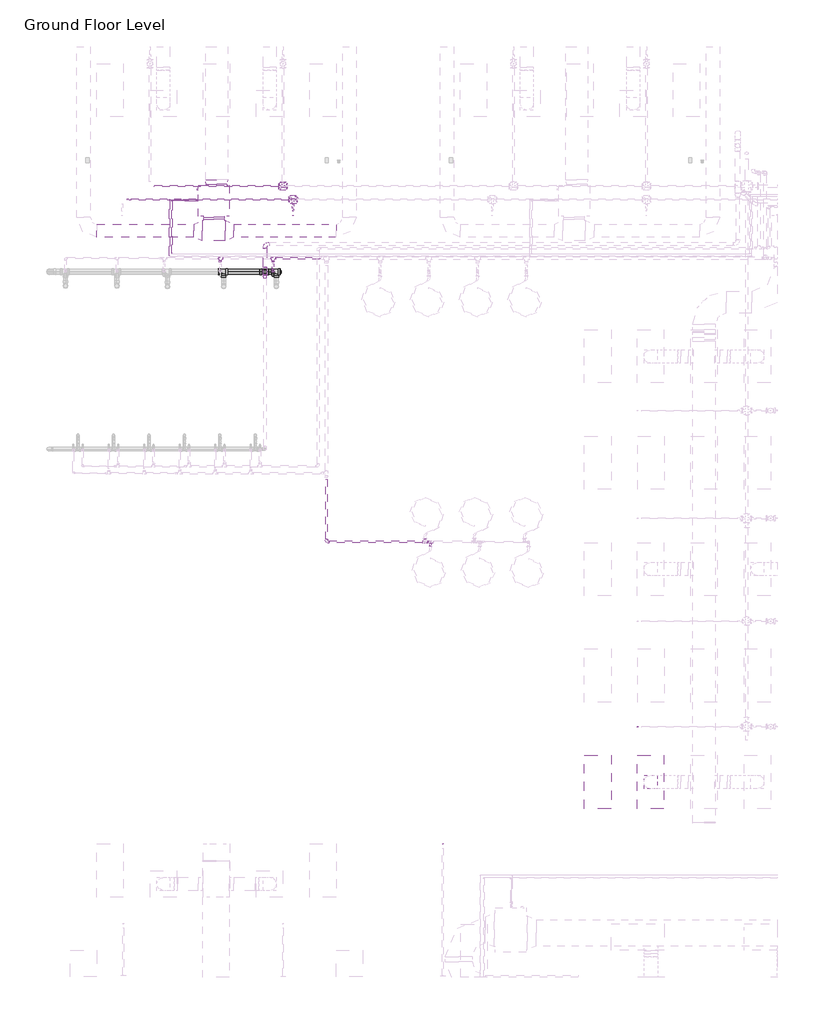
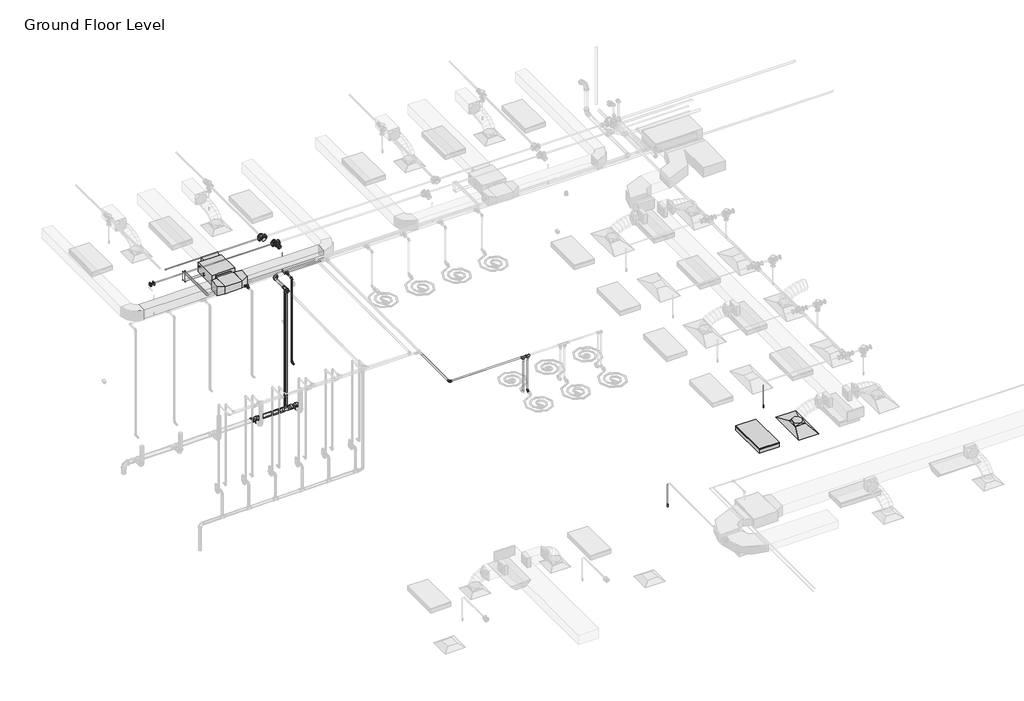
# One storey, part 43 of 74: 28 pipe segments, 25 pipe fittings, 5 duct fittings, 3 duct segments, 3 fire suppression terminals, 1 air terminal, 1 light fixture, 1 proxy.
"""IFC4 building model written with IfcOpenShell, lengths in millimetres."""

from ifc_helpers import new_model, si_unit, point, frame, frame_2d, origin, place, context, project, spatial, polyline, circle_curve, trimmed, segment, composite_curve, outline, extrude, transform, mapped, element, save
from components import m_return_diffuser_1200x600_1200_x_600_face_300_x_300_d1983ef6, fcu_daikin_iu_bad131e0, m_rectangular_tee_standard_fa4de0e8, m_rectangular_transition_angle_45_degree_5a11b24e, m_rectangular_transition_angle_45_degree_6e5ad010, m_rectangular_to_round_transition_angle_45_degree_641efff0, m_sprinkler_dry_pendent_hosted_15_mm_dry_pendent_9bda8e11, m_sprinkler_pendent_15_mm_pendent_06fcbd8e, m_troffer_light_parabolic_rectangular1_0600x1200mm_4_lamp_86473d4a, m_bend_pvc_sch_40_dwv_standard_1fdc8943, m_elbow_generic_standard_a088f956, m_elbow_generic_standard_2a704253, m_plug_pvc_sch_40_dwv_standard_6c40de1c, m_reducer_flanged_cs_class_150_standard_ccf252ad, m_reducer_pvc_sch_40_dwv_standard_d6f2da47, m_tee_reducing_sanitary_pvc_sch_40_dwv_standard_b49161a9, m_tee_reducing_sanitary_pvc_sch_40_dwv_standard_35af4ecc, m_tee_reducing_sanitary_pvc_sch_40_dwv_standard_9cd1363b, m_tee_round_base_flanged_cs_class_150_standard_7e5987a1, standard_517a5a8d, standard_08ff6011, standard_d0d0b892, standard_69e4ce0e

model = new_model("IFC4")

# Units and contexts
model_context = context("Model", 3, world=origin())
ifc_project = project(units=[si_unit("LENGTHUNIT", "METRE", prefix="MILLI")], contexts=[model_context])

# Site, building, storey
site = spatial("IfcSite", under=ifc_project)
building = spatial("IfcBuilding", under=site)
storey = spatial("IfcBuildingStorey", under=building, Name="Ground Floor Level", Elevation=900.0)

# Air terminal
placement = place(None, origin())
m_return_diffuser_1200x600_1200_x_600_face_300_x_300_shape = m_return_diffuser_1200x600_1200_x_600_face_300_x_300_d1983ef6(model_context)
element("IfcAirTerminal", 1, ObjectType="M_Supply Diffuser 1200x600 : 1200 x 600 Face 300 x 300 Connection", at=placement, inside=storey, context=model_context, shape_type="MappedRepresentation", body=[
    mapped(m_return_diffuser_1200x600_1200_x_600_face_300_x_300_shape, transform((-8142.6846929, 1635.2153534, 3650.0), x_axis=(0.0, 1.0, 0.0), y_axis=(-1.0, 0.0, 0.0), z_axis=(0.0, 0.0, 1.0))),
])

# Proxy
fcu_daikin_iu_shape = fcu_daikin_iu_bad131e0(model_context)
element("IfcBuildingElementProxy", 2, Name="FCU-DAIKIN IU : 4.5kW, 230V/50Hz/1Ph", ObjectType="FCU-DAIKIN IU : 4.5kW, 230V/50Hz/1Ph", at=placement, inside=storey, context=model_context, shape_type="MappedRepresentation", body=[
    mapped(fcu_daikin_iu_shape, transform((-17997.2327605, 14745.2153534, 3934.0881511), x_axis=(-1.0, 0.0, 0.0), y_axis=(0.0, -1.0, 0.0), z_axis=(0.0, 0.0, 1.0))),
])

# Duct fittings
m_rectangular_tee_standard_shape = m_rectangular_tee_standard_fa4de0e8(model_context)
element("IfcDuctFitting", 3, ObjectType="M_Rectangular Tee : Standard", at=placement, inside=storey, context=model_context, shape_type="MappedRepresentation", body=[
    mapped(m_rectangular_tee_standard_shape, transform((-17997.2327605, 14069.8153534, 4075.2881511), x_axis=(-1.0, 0.0, 0.0), y_axis=(0.0, -1.0, 0.0), z_axis=(0.0, 0.0, 1.0))),
])
m_rectangular_transition_angle_45_degree_shape = m_rectangular_transition_angle_45_degree_5a11b24e(model_context)
element("IfcDuctFitting", 4, ObjectType="M_Rectangular Transition - Angle : 45 Degree", at=placement, inside=storey, context=model_context, shape_type="MappedRepresentation", body=[
    mapped(m_rectangular_transition_angle_45_degree_shape, transform((-17933.7327605, 15120.6153534, 4100.0006511), x_axis=(0.0, 1.0, 0.0), y_axis=(-1.0, 0.0, 0.0), z_axis=(0.0, 0.0, 1.0))),
])
m_rectangular_transition_angle_45_degree_2_shape = m_rectangular_transition_angle_45_degree_6e5ad010(model_context)
element("IfcDuctFitting", 5, ObjectType="M_Rectangular Transition - Angle : 45 Degree", at=placement, inside=storey, context=model_context, shape_type="MappedRepresentation", body=[
    mapped(m_rectangular_transition_angle_45_degree_2_shape, transform((-17741.2952605, 14069.8153534, 4075.2881511), x_axis=(1.0, 0.0, 0.0), y_axis=(0.0, 1.0, 0.0), z_axis=(0.0, 0.0, 1.0))),
])
element("IfcDuctFitting", 6, ObjectType="M_Rectangular Transition - Angle : 45 Degree", at=placement, inside=storey, context=model_context, shape_type="MappedRepresentation", body=[
    mapped(m_rectangular_transition_angle_45_degree_2_shape, transform((-18253.1702605, 14069.8153534, 4075.2881511), x_axis=(-1.0, 0.0, 0.0), y_axis=(0.0, -1.0, 0.0), z_axis=(0.0, 0.0, 1.0))),
])
m_rectangular_to_round_transition_angle_45_degree_shape = m_rectangular_to_round_transition_angle_45_degree_641efff0(model_context)
element("IfcDuctFitting", 7, ObjectType="M_Rectangular to Round Transition - Angle : 45 Degree", at=placement, inside=storey, context=model_context, shape_type="MappedRepresentation", body=[
    mapped(m_rectangular_to_round_transition_angle_45_degree_shape, transform((-8142.6846929, 1635.2153534, 3751.6), x_axis=(0.0, 0.0, 1.0), y_axis=(-1.0, 0.0, 0.0), z_axis=(0.0, -1.0, 0.0))),
])

# Duct segments
element("IfcDuctSegment", 8, ObjectType="Radius Elbows / Taps", at=placement, inside=storey, context=model_context, shape_type="SweptSolid", body=[
    extrude(outline(polyline([(-18228.1702605, 14369.8153534), (-17766.2952605, 14369.8153534), (-17766.2952605, 14325.7528534), (-18228.1702605, 14325.7528534), (-18228.1702605, 14369.8153534)])), frame((0.0, 0.0, 3968.1381511), z_axis=(0.0, 0.0, 1.0), x_axis=(1.0, 0.0, 0.0)), (0.0, 0.0, 1.0), 214.3),
])
element("IfcDuctSegment", 9, ObjectType="Radius Elbows / Taps", at=placement, inside=storey, context=model_context, shape_type="SweptSolid", body=[
    extrude(outline(polyline([(-17545.8948503, 13919.8153534), (-17545.8948503, 14219.8153534), (-15237.2327605, 14219.8153534), (-15237.2327605, 13919.8153534), (-17545.8948503, 13919.8153534)])), frame((0.0, 0.0, 3925.2881511), z_axis=(0.0, 0.0, 1.0), x_axis=(1.0, 0.0, 0.0)), (0.0, 0.0, 1.0), 300.0),
])
element("IfcDuctSegment", 10, ObjectType="Radius Elbows / Taps", at=placement, inside=storey, context=model_context, shape_type="SweptSolid", body=[
    extrude(outline(polyline([(-18448.5706707, 14219.8153534), (-18448.5706707, 13919.8153534), (-20637.2327605, 13919.8153534), (-20637.2327605, 14219.8153534), (-18448.5706707, 14219.8153534)])), frame((0.0, 0.0, 3925.2881511), z_axis=(0.0, 0.0, 1.0), x_axis=(1.0, 0.0, 0.0)), (0.0, 0.0, 1.0), 300.0),
])

# Fire suppression terminals
m_sprinkler_dry_pendent_hosted_15_mm_dry_pendent_shape = m_sprinkler_dry_pendent_hosted_15_mm_dry_pendent_9bda8e11(model_context)
element("IfcFireSuppressionTerminal", 11, ObjectType="M_Sprinkler - Dry - Pendent - Hosted : 15 mm Dry Pendent", at=placement, inside=storey, context=model_context, shape_type="MappedRepresentation", body=[
    mapped(m_sprinkler_dry_pendent_hosted_15_mm_dry_pendent_shape, transform((-8437.2327605, 2881.5134565, 3650.0), x_axis=(1.0, 0.0, 0.0), y_axis=(0.0, -1.0, 0.0), z_axis=(0.0, 0.0, -1.0))),
])
element("IfcFireSuppressionTerminal", 12, ObjectType="M_Sprinkler - Dry - Pendent - Hosted : 15 mm Dry Pendent", at=placement, inside=storey, context=model_context, shape_type="MappedRepresentation", body=[
    mapped(m_sprinkler_dry_pendent_hosted_15_mm_dry_pendent_shape, transform((-12837.2327605, 235.2153534, 3650.0), x_axis=(1.0, 0.0, 0.0), y_axis=(0.0, -1.0, 0.0), z_axis=(0.0, 0.0, -1.0))),
])
m_sprinkler_pendent_15_mm_pendent_shape = m_sprinkler_pendent_15_mm_pendent_06fcbd8e(model_context)
element("IfcFireSuppressionTerminal", 13, ObjectType="M_Sprinkler - Pendent : 15 mm Pendent", at=placement, inside=storey, context=model_context, shape_type="MappedRepresentation", body=[
    mapped(m_sprinkler_pendent_15_mm_pendent_shape, transform((-16210.1138499, 14412.7243649, 3650.0), x_axis=(1.0, 0.0, 0.0), y_axis=(0.0, 1.0, 0.0), z_axis=(0.0, 0.0, 1.0))),
])

# Light fixture
m_troffer_light_parabolic_rectangular1_0600x1200mm_4_lamp_shape = m_troffer_light_parabolic_rectangular1_0600x1200mm_4_lamp_86473d4a(model_context)
element("IfcLightFixture", 14, ObjectType="M_Troffer Light - Parabolic Rectangular1 : 0600x1200mm(4 Lamp) - 277V 2", at=placement, inside=storey, context=model_context, shape_type="MappedRepresentation", body=[
    mapped(m_troffer_light_parabolic_rectangular1_0600x1200mm_4_lamp_shape, transform((-9396.6986926, 1653.918855, 3650.0), x_axis=(0.0, 1.0, 0.0), y_axis=(-1.0, 0.0, 0.0), z_axis=(0.0, 0.0, 1.0))),
])

# Pipe fittings
m_bend_pvc_sch_40_dwv_standard_shape = m_bend_pvc_sch_40_dwv_standard_1fdc8943(model_context)
element("IfcPipeFitting", 15, ObjectType="M_Bend - PVC - Sch 40 - DWV : Standard", at=placement, inside=storey, context=model_context, shape_type="MappedRepresentation", body=[
    mapped(m_bend_pvc_sch_40_dwv_standard_shape, transform((-16844.3158637, 13768.8048932, 4050.2768363), x_axis=(-0.9999500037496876, 0.0, -0.009999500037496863), y_axis=(0.0, -1.0, 0.0), z_axis=(-0.009999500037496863, 0.0, 0.9999500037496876))),
])
m_elbow_generic_standard_shape = m_elbow_generic_standard_a088f956(model_context)
element("IfcPipeFitting", 16, ObjectType="M_Elbow - Generic : Standard", at=placement, inside=storey, context=model_context, shape_type="MappedRepresentation", body=[
    mapped(m_elbow_generic_standard_shape, transform((-18945.3327605, 14745.2153534, 4034.0881511), x_axis=(-1.0, 0.0, 0.0), y_axis=(0.0, 0.0, 1.0), z_axis=(0.0, 1.0, 0.0))),
])
element("IfcPipeFitting", 17, ObjectType="M_Elbow - Generic : Standard", at=placement, inside=storey, context=model_context, shape_type="MappedRepresentation", body=[
    mapped(m_elbow_generic_standard_shape, transform((-18945.3327605, 14745.2153534, 4380.0), x_axis=(0.0, 0.0, 1.0), y_axis=(0.0, -1.0, 0.0), z_axis=(1.0, 0.0, 0.0))),
])
m_elbow_generic_standard_2_shape = m_elbow_generic_standard_2a704253(model_context)
element("IfcPipeFitting", 18, ObjectType="M_Elbow - Generic : Standard", at=placement, inside=storey, context=model_context, shape_type="MappedRepresentation", body=[
    mapped(m_elbow_generic_standard_2_shape, transform((-18995.0192947, 14770.2153534, 4365.0), x_axis=(0.0, 1.0, 0.0), y_axis=(0.0, 0.0, -1.0), z_axis=(-1.0, 0.0, 0.0))),
])
element("IfcPipeFitting", 19, ObjectType="M_Elbow - Generic : Standard", at=placement, inside=storey, context=model_context, shape_type="MappedRepresentation", body=[
    mapped(m_elbow_generic_standard_2_shape, transform((-18995.0192947, 14770.2153534, 4084.8881511), x_axis=(0.0, 0.0, -1.0), y_axis=(1.0, 0.0, 0.0), z_axis=(0.0, -1.0, 0.0))),
])
m_plug_pvc_sch_40_dwv_standard_shape = m_plug_pvc_sch_40_dwv_standard_6c40de1c(model_context)
element("IfcPipeFitting", 20, ObjectType="M_Plug - PVC - Sch 40 - DWV : Standard", at=placement, inside=storey, context=model_context, shape_type="MappedRepresentation", body=[
    mapped(m_plug_pvc_sch_40_dwv_standard_shape, transform((-16497.5246709, 13143.7240477, 252.0903992), x_axis=(0.9999500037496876, 0.0, 0.009999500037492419), y_axis=(0.0, 1.0, 0.0), z_axis=(-0.009999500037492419, 0.0, 0.9999500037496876))),
])
m_reducer_flanged_cs_class_150_standard_shape = m_reducer_flanged_cs_class_150_standard_ccf252ad(model_context)
element("IfcPipeFitting", 21, ObjectType="M_Reducer - Flanged - CS - Class 150 : Standard", at=placement, inside=storey, context=model_context, shape_type="MappedRepresentation", body=[
    mapped(m_reducer_flanged_cs_class_150_standard_shape, transform((-19856.6717995, 14773.4681847, 4291.0943441), x_axis=(-1.0, 0.0, 0.0), y_axis=(0.0, -1.0, 0.0), z_axis=(0.0, 0.0, 1.0))),
])
element("IfcPipeFitting", 22, ObjectType="M_Reducer - Flanged - CS - Class 150 : Standard", at=placement, inside=storey, context=model_context, shape_type="MappedRepresentation", body=[
    mapped(m_reducer_flanged_cs_class_150_standard_shape, transform((-16210.1138499, 14672.759591, 4291.0943441), x_axis=(0.0, -1.0, 0.0), y_axis=(1.0, 0.0, 0.0), z_axis=(0.0, 0.0, 1.0))),
])
m_reducer_pvc_sch_40_dwv_standard_shape = m_reducer_pvc_sch_40_dwv_standard_d6f2da47(model_context)
element("IfcPipeFitting", 23, ObjectType="M_Reducer - PVC - Sch 40 - DWV : Standard", at=placement, inside=storey, context=model_context, shape_type="MappedRepresentation", body=[
    mapped(m_reducer_pvc_sch_40_dwv_standard_shape, transform((-16844.3158637, 13068.078397, 4049.9889294), x_axis=(0.0, -0.9999576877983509, -0.009199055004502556), y_axis=(1.0000000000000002, 0.0, 0.0), z_axis=(0.0, -0.009199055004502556, 0.9999576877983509))),
])
m_tee_reducing_sanitary_pvc_sch_40_dwv_standard_shape = m_tee_reducing_sanitary_pvc_sch_40_dwv_standard_b49161a9(model_context)
element("IfcPipeFitting", 24, ObjectType="M_Tee Reducing Sanitary - PVC - Sch 40 - DWV : Standard", at=placement, inside=storey, context=model_context, shape_type="MappedRepresentation", body=[
    mapped(m_tee_reducing_sanitary_pvc_sch_40_dwv_standard_shape, transform((-17775.8329095, 13143.7240477, 239.3073168), x_axis=(0.9999500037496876, 0.0, 0.00999950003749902), y_axis=(0.0, 1.0000000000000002, 0.0), z_axis=(-0.00999950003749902, 0.0, 0.9999500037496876))),
])
element("IfcPipeFitting", 25, ObjectType="M_Tee Reducing Sanitary - PVC - Sch 40 - DWV : Standard", at=placement, inside=storey, context=model_context, shape_type="MappedRepresentation", body=[
    mapped(m_tee_reducing_sanitary_pvc_sch_40_dwv_standard_shape, transform((-16586.4202262, 13143.7240477, 251.2014437), x_axis=(0.9999500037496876, 0.0, 0.009999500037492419), y_axis=(0.0, 1.0, 0.0), z_axis=(-0.009999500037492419, 0.0, 0.9999500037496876))),
])
m_tee_reducing_sanitary_pvc_sch_40_dwv_standard_2_shape = m_tee_reducing_sanitary_pvc_sch_40_dwv_standard_35af4ecc(model_context)
element("IfcPipeFitting", 26, ObjectType="M_Tee Reducing Sanitary - PVC - Sch 40 - DWV : Standard", at=placement, inside=storey, context=model_context, shape_type="MappedRepresentation", body=[
    mapped(m_tee_reducing_sanitary_pvc_sch_40_dwv_standard_2_shape, transform((-16844.3824695, 13143.7240477, 248.6218212), x_axis=(0.9999500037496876, 0.0, 0.00999950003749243), y_axis=(0.00999950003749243, 0.0, -0.9999500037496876), z_axis=(0.0, 1.0, 0.0))),
])
m_tee_reducing_sanitary_pvc_sch_40_dwv_standard_3_shape = m_tee_reducing_sanitary_pvc_sch_40_dwv_standard_9cd1363b(model_context)
element("IfcPipeFitting", 27, ObjectType="M_Tee Reducing Sanitary - PVC - Sch 40 - DWV : Standard", at=placement, inside=storey, context=model_context, shape_type="MappedRepresentation", body=[
    mapped(m_tee_reducing_sanitary_pvc_sch_40_dwv_standard_3_shape, transform((-16844.3158637, 13143.7240477, 4050.2768363), x_axis=(0.0, -1.0, 0.0), y_axis=(-2.9192257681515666e-06, 0.0, 0.9999999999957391), z_axis=(-0.9999999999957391, 0.0, -2.9192257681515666e-06))),
])
m_tee_round_base_flanged_cs_class_150_standard_shape = m_tee_round_base_flanged_cs_class_150_standard_7e5987a1(model_context)
element("IfcPipeFitting", 28, ObjectType="M_Tee Round Base - Flanged - CS - Class 150 : Standard", at=placement, inside=storey, context=model_context, shape_type="MappedRepresentation", body=[
    mapped(m_tee_round_base_flanged_cs_class_150_standard_shape, transform((-16210.1138499, 14773.4681847, 4291.0943441), x_axis=(-1.0, 0.0, 0.0), y_axis=(0.0, 1.0, 0.0), z_axis=(0.0, 0.0, -1.0))),
])
element("IfcPipeFitting", 29, ObjectType="M_Tee Round Base - Flanged - CS - Class 150 : Standard", at=placement, inside=storey, context=model_context, shape_type="MappedRepresentation", body=[
    mapped(m_tee_round_base_flanged_cs_class_150_standard_shape, transform((-16437.2327605, 15073.2009828, 4360.0), x_axis=(-1.0, 0.0, 0.0), y_axis=(0.0, -1.0, 0.0), z_axis=(0.0, 0.0, 1.0))),
])
standard_shape = standard_517a5a8d(model_context)
element("IfcPipeFitting", 30, ObjectType="M_Elbow - CPVC - Sch 40 : Standard", at=placement, inside=storey, context=model_context, shape_type="MappedRepresentation", body=[
    mapped(standard_shape, transform((-16659.8589924, 13149.9865561, 4315.0), x_axis=(0.0, 0.0, 1.0), y_axis=(0.0, 1.0, 0.0), z_axis=(-1.0, 0.0, 0.0))),
])
element("IfcPipeFitting", 31, ObjectType="M_Elbow - CPVC - Sch 40 : Standard", at=placement, inside=storey, context=model_context, shape_type="MappedRepresentation", body=[
    mapped(standard_shape, transform((-16659.8589924, 13149.9865561, 1655.0), x_axis=(0.0, 0.0, -1.0), y_axis=(0.0, -1.0, 0.0), z_axis=(-1.0, 0.0, 0.0))),
])
element("IfcPipeFitting", 32, ObjectType="M_Elbow - CPVC - Sch 40 : Standard", at=placement, inside=storey, context=model_context, shape_type="MappedRepresentation", body=[
    mapped(standard_shape, transform((-13107.2327605, 7049.9865561, 3200.0), x_axis=(0.0, 0.0, -1.0), y_axis=(0.0, -1.0, 0.0), z_axis=(-1.0, 0.0, 0.0))),
])
standard_2_shape = standard_08ff6011(model_context)
element("IfcPipeFitting", 33, ObjectType="M_Tee - CPVC - Sch 40 : Standard", at=placement, inside=storey, context=model_context, shape_type="MappedRepresentation", body=[
    mapped(standard_2_shape, transform((-17849.2716757, 13449.9865561, 4315.0), x_axis=(-1.0, 0.0, 0.0), y_axis=(0.0, 1.0, 0.0), z_axis=(0.0, 0.0, -1.0))),
])
element("IfcPipeFitting", 34, ObjectType="M_Tee - CPVC - Sch 40 : Standard", at=placement, inside=storey, context=model_context, shape_type="MappedRepresentation", body=[
    mapped(standard_2_shape, transform((-16659.8589924, 13449.9865561, 4315.0), x_axis=(-1.0, 0.0, 0.0), y_axis=(0.0, 1.0, 0.0), z_axis=(0.0, 0.0, -1.0))),
])
element("IfcPipeFitting", 35, ObjectType="M_Tee - CPVC - Sch 40 : Standard", at=placement, inside=storey, context=model_context, shape_type="MappedRepresentation", body=[
    mapped(standard_2_shape, transform((-13107.2327605, 7049.9865561, 4315.0), x_axis=(-1.0, 0.0, 0.0), y_axis=(0.0, 0.0, 1.0), z_axis=(0.0, 1.0, 0.0))),
])
element("IfcPipeFitting", 36, ObjectType="M_Tee - CPVC - Sch 40 : Standard", at=placement, inside=storey, context=model_context, shape_type="MappedRepresentation", body=[
    mapped(standard_2_shape, transform((-13232.2327605, 7049.9865561, 4315.0), x_axis=(-1.0, 0.0, 0.0), y_axis=(0.0, 0.0, 1.0), z_axis=(0.0, 1.0, 0.0))),
])
standard_3_shape = standard_d0d0b892(model_context)
element("IfcPipeFitting", 37, ObjectType="M_Coupling Reducing - CPVC - Sch 40 : Standard", at=placement, inside=storey, context=model_context, shape_type="MappedRepresentation", body=[
    mapped(standard_3_shape, transform((-17849.2716757, 13396.0115561, 4315.0), x_axis=(0.0, -1.0, 0.0), y_axis=(1.0, 0.0, 0.0), z_axis=(0.0, 0.0, 1.0))),
])
element("IfcPipeFitting", 38, ObjectType="M_Coupling Reducing - CPVC - Sch 40 : Standard", at=placement, inside=storey, context=model_context, shape_type="MappedRepresentation", body=[
    mapped(standard_3_shape, transform((-16659.8589924, 13396.0115561, 4315.0), x_axis=(0.0, -1.0, 0.0), y_axis=(1.0, 0.0, 0.0), z_axis=(0.0, 0.0, 1.0))),
])
standard_4_shape = standard_69e4ce0e(model_context)
element("IfcPipeFitting", 39, ObjectType="M_Elbow - CPVC - Sch 40 : Standard", at=placement, inside=storey, context=model_context, shape_type="MappedRepresentation", body=[
    mapped(standard_4_shape, transform((-15455.6408298, 7049.9865561, 4315.0), x_axis=(0.0, -1.0, 0.0), y_axis=(1.0, 0.0, 0.0), z_axis=(0.0, 0.0, 1.0))),
])

# Pipe segments
element("IfcPipeSegment", 40, ObjectType="CPVC", at=placement, inside=storey, context=model_context, shape_type="SweptSolid", body=[
    extrude(outline(composite_curve([segment(trimmed(circle_curve(frame_2d((1655.0, -16659.8589924)), 16.7005), [point((1655.0, -16676.5594924))], [point((1638.2995, -16659.8589924))], False, "CARTESIAN"), True, "CONTINUOUS"), segment(trimmed(circle_curve(frame_2d((1655.0, -16659.8589924)), 16.7005), [point((1638.2995, -16659.8589924))], [point((1655.0, -16643.1584924))], False, "CARTESIAN"), True, "CONTINUOUS"), segment(trimmed(circle_curve(frame_2d((1655.0, -16659.8589924)), 16.7005), [point((1655.0, -16643.1584924))], [point((1671.7005, -16659.8589924))], False, "CARTESIAN"), True, "CONTINUOUS"), segment(trimmed(circle_curve(frame_2d((1655.0, -16659.8589924)), 16.7005), [point((1671.7005, -16659.8589924))], [point((1655.0, -16676.5594924))], False, "CARTESIAN"), True, "CONTINUOUS")], self_intersect=False)), frame((0.0, 13045.2153534, 0.0), z_axis=(0.0, 1.0, 0.0), x_axis=(0.0, 0.0, 1.0)), (0.0, 0.0, 1.0), 61.5086528),
])
element("IfcPipeSegment", 41, ObjectType="CPVC", at=placement, inside=storey, context=model_context, shape_type="SweptSolid", body=[
    extrude(outline(composite_curve([segment(trimmed(circle_curve(frame_2d((-16659.8589924, 13149.9865561)), 16.7005), [point((-16676.5594924, 13149.9865561))], [point((-16659.8589924, 13166.6870561))], False, "CARTESIAN"), True, "CONTINUOUS"), segment(trimmed(circle_curve(frame_2d((-16659.8589924, 13149.9865561)), 16.7005), [point((-16659.8589924, 13166.6870561))], [point((-16643.1584924, 13149.9865561))], False, "CARTESIAN"), True, "CONTINUOUS"), segment(trimmed(circle_curve(frame_2d((-16659.8589924, 13149.9865561)), 16.7005), [point((-16643.1584924, 13149.9865561))], [point((-16659.8589924, 13133.2860561))], False, "CARTESIAN"), True, "CONTINUOUS"), segment(trimmed(circle_curve(frame_2d((-16659.8589924, 13149.9865561)), 16.7005), [point((-16659.8589924, 13133.2860561))], [point((-16676.5594924, 13149.9865561))], False, "CARTESIAN"), True, "CONTINUOUS")], self_intersect=False)), frame((0.0, 0.0, 1698.26255), z_axis=(0.0, 0.0, 1.0), x_axis=(1.0, 0.0, 0.0)), (0.0, 0.0, 1.0), 2573.4749),
])
element("IfcPipeSegment", 42, ObjectType="CPVC", at=placement, inside=storey, context=model_context, shape_type="SweptSolid", body=[
    extrude(outline(composite_curve([segment(trimmed(circle_curve(frame_2d((4315.0, -16659.8589924)), 16.7005), [point((4315.0, -16643.1584924))], [point((4331.7005, -16659.8589924))], False, "CARTESIAN"), True, "CONTINUOUS"), segment(trimmed(circle_curve(frame_2d((4315.0, -16659.8589924)), 16.7005), [point((4331.7005, -16659.8589924))], [point((4315.0, -16676.5594924))], False, "CARTESIAN"), True, "CONTINUOUS"), segment(trimmed(circle_curve(frame_2d((4315.0, -16659.8589924)), 16.7005), [point((4315.0, -16676.5594924))], [point((4298.2995, -16659.8589924))], False, "CARTESIAN"), True, "CONTINUOUS"), segment(trimmed(circle_curve(frame_2d((4315.0, -16659.8589924)), 16.7005), [point((4298.2995, -16659.8589924))], [point((4315.0, -16643.1584924))], False, "CARTESIAN"), True, "CONTINUOUS")], self_intersect=False)), frame((0.0, 13193.2491061, 0.0), z_axis=(0.0, 1.0, 0.0), x_axis=(0.0, 0.0, 1.0)), (0.0, 0.0, 1.0), 136.643575),
])
element("IfcPipeSegment", 43, ObjectType="CPVC", at=placement, inside=storey, context=model_context, shape_type="SweptSolid", body=[
    extrude(outline(composite_curve([segment(trimmed(circle_curve(frame_2d((4315.0, -15455.6408298)), 21.082), [point((4315.0, -15476.7228298))], [point((4293.918, -15455.6408298))], False, "CARTESIAN"), True, "CONTINUOUS"), segment(trimmed(circle_curve(frame_2d((4315.0, -15455.6408298)), 21.082), [point((4293.918, -15455.6408298))], [point((4315.0, -15434.5588298))], False, "CARTESIAN"), True, "CONTINUOUS"), segment(trimmed(circle_curve(frame_2d((4315.0, -15455.6408298)), 21.082), [point((4315.0, -15434.5588298))], [point((4336.082, -15455.6408298))], False, "CARTESIAN"), True, "CONTINUOUS"), segment(trimmed(circle_curve(frame_2d((4315.0, -15455.6408298)), 21.082), [point((4336.082, -15455.6408298))], [point((4315.0, -15476.7228298))], False, "CARTESIAN"), True, "CONTINUOUS")], self_intersect=False)), frame((0.0, 7107.9303061, 0.0), z_axis=(0.0, 1.0, 0.0), x_axis=(0.0, 0.0, 1.0)), (0.0, 0.0, 1.0), 1355.4879172),
])
element("IfcPipeSegment", 44, ObjectType="CPVC", at=placement, inside=storey, context=model_context, shape_type="SweptSolid", body=[
    extrude(outline(composite_curve([segment(trimmed(circle_curve(frame_2d((13449.9865561, 4315.0)), 21.082), [point((13428.9045561, 4315.0))], [point((13449.9865561, 4336.082))], False, "CARTESIAN"), True, "CONTINUOUS"), segment(trimmed(circle_curve(frame_2d((13449.9865561, 4315.0)), 21.082), [point((13449.9865561, 4336.082))], [point((13471.0685561, 4315.0))], False, "CARTESIAN"), True, "CONTINUOUS"), segment(trimmed(circle_curve(frame_2d((13449.9865561, 4315.0)), 21.082), [point((13471.0685561, 4315.0))], [point((13449.9865561, 4293.918))], False, "CARTESIAN"), True, "CONTINUOUS"), segment(trimmed(circle_curve(frame_2d((13449.9865561, 4315.0)), 21.082), [point((13449.9865561, 4293.918))], [point((13428.9045561, 4315.0))], False, "CARTESIAN"), True, "CONTINUOUS")], self_intersect=False)), frame((-16605.8839924, 0.0, 0.0), z_axis=(1.0, 0.0, 0.0), x_axis=(0.0, 1.0, 0.0)), (0.0, 0.0, 1.0), 998.2294126),
])
element("IfcPipeSegment", 45, ObjectType="CPVC", at=placement, inside=storey, context=model_context, shape_type="SweptSolid", body=[
    extrude(outline(composite_curve([segment(trimmed(circle_curve(frame_2d((3200.0, -13107.2327605)), 16.7005), [point((3200.0, -13123.9332605))], [point((3183.2995, -13107.2327605))], False, "CARTESIAN"), True, "CONTINUOUS"), segment(trimmed(circle_curve(frame_2d((3200.0, -13107.2327605)), 16.7005), [point((3183.2995, -13107.2327605))], [point((3200.0, -13090.5322605))], False, "CARTESIAN"), True, "CONTINUOUS"), segment(trimmed(circle_curve(frame_2d((3200.0, -13107.2327605)), 16.7005), [point((3200.0, -13090.5322605))], [point((3216.7005, -13107.2327605))], False, "CARTESIAN"), True, "CONTINUOUS"), segment(trimmed(circle_curve(frame_2d((3200.0, -13107.2327605)), 16.7005), [point((3216.7005, -13107.2327605))], [point((3200.0, -13123.9332605))], False, "CARTESIAN"), True, "CONTINUOUS")], self_intersect=False)), frame((0.0, 6956.8347997, 0.0), z_axis=(0.0, 1.0, 0.0), x_axis=(0.0, 0.0, 1.0)), (0.0, 0.0, 1.0), 49.8892064),
])
element("IfcPipeSegment", 46, ObjectType="CPVC", at=placement, inside=storey, context=model_context, shape_type="SweptSolid", body=[
    extrude(outline(composite_curve([segment(trimmed(circle_curve(frame_2d((-13107.2327605, 7049.9865561)), 16.7005), [point((-13090.5322605, 7049.9865561))], [point((-13107.2327605, 7033.2860561))], False, "CARTESIAN"), True, "CONTINUOUS"), segment(trimmed(circle_curve(frame_2d((-13107.2327605, 7049.9865561)), 16.7005), [point((-13107.2327605, 7033.2860561))], [point((-13123.9332605, 7049.9865561))], False, "CARTESIAN"), True, "CONTINUOUS"), segment(trimmed(circle_curve(frame_2d((-13107.2327605, 7049.9865561)), 16.7005), [point((-13123.9332605, 7049.9865561))], [point((-13107.2327605, 7066.6870561))], False, "CARTESIAN"), True, "CONTINUOUS"), segment(trimmed(circle_curve(frame_2d((-13107.2327605, 7049.9865561)), 16.7005), [point((-13107.2327605, 7066.6870561))], [point((-13090.5322605, 7049.9865561))], False, "CARTESIAN"), True, "CONTINUOUS")], self_intersect=False)), frame((0.0, 0.0, 3243.26255), z_axis=(0.0, 0.0, 1.0), x_axis=(1.0, 0.0, 0.0)), (0.0, 0.0, 1.0), 951.643575),
])
element("IfcPipeSegment", 47, ObjectType="CPVC", at=placement, inside=storey, context=model_context, shape_type="SweptSolid", body=[
    extrude(outline(composite_curve([segment(trimmed(circle_curve(frame_2d((7049.9865561, 4315.0)), 21.082), [point((7028.9045561, 4315.0))], [point((7049.9865561, 4336.082))], False, "CARTESIAN"), True, "CONTINUOUS"), segment(trimmed(circle_curve(frame_2d((7049.9865561, 4315.0)), 21.082), [point((7049.9865561, 4336.082))], [point((7071.0685561, 4315.0))], False, "CARTESIAN"), True, "CONTINUOUS"), segment(trimmed(circle_curve(frame_2d((7049.9865561, 4315.0)), 21.082), [point((7071.0685561, 4315.0))], [point((7049.9865561, 4293.918))], False, "CARTESIAN"), True, "CONTINUOUS"), segment(trimmed(circle_curve(frame_2d((7049.9865561, 4315.0)), 21.082), [point((7049.9865561, 4293.918))], [point((7028.9045561, 4315.0))], False, "CARTESIAN"), True, "CONTINUOUS")], self_intersect=False)), frame((-13178.2577605, 0.0, 0.0), z_axis=(1.0, 0.0, 0.0), x_axis=(0.0, 1.0, 0.0)), (0.0, 0.0, 1.0), 17.05),
])
element("IfcPipeSegment", 48, ObjectType="CPVC", at=placement, inside=storey, context=model_context, shape_type="SweptSolid", body=[
    extrude(outline(composite_curve([segment(trimmed(circle_curve(frame_2d((3200.0, -13232.2327605)), 16.7005), [point((3200.0, -13215.5322605))], [point((3216.7005, -13232.2327605))], False, "CARTESIAN"), True, "CONTINUOUS"), segment(trimmed(circle_curve(frame_2d((3200.0, -13232.2327605)), 16.7005), [point((3216.7005, -13232.2327605))], [point((3200.0, -13248.9332605))], False, "CARTESIAN"), True, "CONTINUOUS"), segment(trimmed(circle_curve(frame_2d((3200.0, -13232.2327605)), 16.7005), [point((3200.0, -13248.9332605))], [point((3183.2995, -13232.2327605))], False, "CARTESIAN"), True, "CONTINUOUS"), segment(trimmed(circle_curve(frame_2d((3200.0, -13232.2327605)), 16.7005), [point((3183.2995, -13232.2327605))], [point((3200.0, -13215.5322605))], False, "CARTESIAN"), True, "CONTINUOUS")], self_intersect=False)), frame((0.0, 7093.2491061, 0.0), z_axis=(0.0, 1.0, 0.0), x_axis=(0.0, 0.0, 1.0)), (0.0, 0.0, 1.0), 30.346801),
])
element("IfcPipeSegment", 49, ObjectType="CPVC", at=placement, inside=storey, context=model_context, shape_type="SweptSolid", body=[
    extrude(outline(composite_curve([segment(trimmed(circle_curve(frame_2d((-13232.2327605, 7049.9865561)), 16.7005), [point((-13215.5322605, 7049.9865561))], [point((-13232.2327605, 7033.2860561))], False, "CARTESIAN"), True, "CONTINUOUS"), segment(trimmed(circle_curve(frame_2d((-13232.2327605, 7049.9865561)), 16.7005), [point((-13232.2327605, 7033.2860561))], [point((-13248.9332605, 7049.9865561))], False, "CARTESIAN"), True, "CONTINUOUS"), segment(trimmed(circle_curve(frame_2d((-13232.2327605, 7049.9865561)), 16.7005), [point((-13248.9332605, 7049.9865561))], [point((-13232.2327605, 7066.6870561))], False, "CARTESIAN"), True, "CONTINUOUS"), segment(trimmed(circle_curve(frame_2d((-13232.2327605, 7049.9865561)), 16.7005), [point((-13232.2327605, 7066.6870561))], [point((-13215.5322605, 7049.9865561))], False, "CARTESIAN"), True, "CONTINUOUS")], self_intersect=False)), frame((0.0, 0.0, 3243.26255), z_axis=(0.0, 0.0, 1.0), x_axis=(1.0, 0.0, 0.0)), (0.0, 0.0, 1.0), 951.643575),
])
element("IfcPipeSegment", 50, ObjectType="CPVC", at=placement, inside=storey, context=model_context, shape_type="SweptSolid", body=[
    extrude(outline(composite_curve([segment(trimmed(circle_curve(frame_2d((7049.9865561, 4315.0)), 21.082), [point((7028.9045561, 4315.0))], [point((7049.9865561, 4336.082))], False, "CARTESIAN"), True, "CONTINUOUS"), segment(trimmed(circle_curve(frame_2d((7049.9865561, 4315.0)), 21.082), [point((7049.9865561, 4336.082))], [point((7071.0685561, 4315.0))], False, "CARTESIAN"), True, "CONTINUOUS"), segment(trimmed(circle_curve(frame_2d((7049.9865561, 4315.0)), 21.082), [point((7071.0685561, 4315.0))], [point((7049.9865561, 4293.918))], False, "CARTESIAN"), True, "CONTINUOUS"), segment(trimmed(circle_curve(frame_2d((7049.9865561, 4315.0)), 21.082), [point((7049.9865561, 4293.918))], [point((7028.9045561, 4315.0))], False, "CARTESIAN"), True, "CONTINUOUS")], self_intersect=False)), frame((-15397.6970798, 0.0, 0.0), z_axis=(1.0, 0.0, 0.0), x_axis=(0.0, 1.0, 0.0)), (0.0, 0.0, 1.0), 2111.4893193),
])
element("IfcPipeSegment", 51, ObjectType="Copper", at=placement, inside=storey, context=model_context, shape_type="SweptSolid", body=[
    extrude(outline(composite_curve([segment(trimmed(circle_curve(frame_2d((14770.2153534, 4084.8881511)), 3.35), [point((14766.8653534, 4084.8881511))], [point((14770.2153534, 4088.2381511))], False, "CARTESIAN"), True, "CONTINUOUS"), segment(trimmed(circle_curve(frame_2d((14770.2153534, 4084.8881511)), 3.35), [point((14770.2153534, 4088.2381511))], [point((14773.5653534, 4084.8881511))], False, "CARTESIAN"), True, "CONTINUOUS"), segment(trimmed(circle_curve(frame_2d((14770.2153534, 4084.8881511)), 3.35), [point((14773.5653534, 4084.8881511))], [point((14770.2153534, 4081.5381511))], False, "CARTESIAN"), True, "CONTINUOUS"), segment(trimmed(circle_curve(frame_2d((14770.2153534, 4084.8881511)), 3.35), [point((14770.2153534, 4081.5381511))], [point((14766.8653534, 4084.8881511))], False, "CARTESIAN"), True, "CONTINUOUS")], self_intersect=False)), frame((-18983.8817947, 0.0, 0.0), z_axis=(1.0, 0.0, 0.0), x_axis=(0.0, 1.0, 0.0)), (0.0, 0.0, 1.0), 598.5490342),
])
element("IfcPipeSegment", 52, ObjectType="Copper", at=placement, inside=storey, context=model_context, shape_type="SweptSolid", body=[
    extrude(outline(composite_curve([segment(trimmed(circle_curve(frame_2d((4365.0, -18995.0192947)), 3.35), [point((4365.0, -18991.6692947))], [point((4368.35, -18995.0192947))], False, "CARTESIAN"), True, "CONTINUOUS"), segment(trimmed(circle_curve(frame_2d((4365.0, -18995.0192947)), 3.35), [point((4368.35, -18995.0192947))], [point((4365.0, -18998.3692947))], False, "CARTESIAN"), True, "CONTINUOUS"), segment(trimmed(circle_curve(frame_2d((4365.0, -18995.0192947)), 3.35), [point((4365.0, -18998.3692947))], [point((4361.65, -18995.0192947))], False, "CARTESIAN"), True, "CONTINUOUS"), segment(trimmed(circle_curve(frame_2d((4365.0, -18995.0192947)), 3.35), [point((4361.65, -18995.0192947))], [point((4365.0, -18991.6692947))], False, "CARTESIAN"), True, "CONTINUOUS")], self_intersect=False)), frame((0.0, 13505.1560138, 0.0), z_axis=(0.0, 1.0, 0.0), x_axis=(0.0, 0.0, 1.0)), (0.0, 0.0, 1.0), 1253.9218396),
])
element("IfcPipeSegment", 53, ObjectType="Copper", at=placement, inside=storey, context=model_context, shape_type="SweptSolid", body=[
    extrude(outline(composite_curve([segment(trimmed(circle_curve(frame_2d((-18995.0192947, 14770.2153534)), 3.35), [point((-18991.6692947, 14770.2153534))], [point((-18995.0192947, 14766.8653534))], False, "CARTESIAN"), True, "CONTINUOUS"), segment(trimmed(circle_curve(frame_2d((-18995.0192947, 14770.2153534)), 3.35), [point((-18995.0192947, 14766.8653534))], [point((-18998.3692947, 14770.2153534))], False, "CARTESIAN"), True, "CONTINUOUS"), segment(trimmed(circle_curve(frame_2d((-18995.0192947, 14770.2153534)), 3.35), [point((-18998.3692947, 14770.2153534))], [point((-18995.0192947, 14773.5653534))], False, "CARTESIAN"), True, "CONTINUOUS"), segment(trimmed(circle_curve(frame_2d((-18995.0192947, 14770.2153534)), 3.35), [point((-18995.0192947, 14773.5653534))], [point((-18991.6692947, 14770.2153534))], False, "CARTESIAN"), True, "CONTINUOUS")], self_intersect=False)), frame((0.0, 0.0, 4096.0256511), z_axis=(0.0, 0.0, 1.0), x_axis=(1.0, 0.0, 0.0)), (0.0, 0.0, 1.0), 257.8368489),
])
element("IfcPipeSegment", 54, ObjectType="Copper", at=placement, inside=storey, context=model_context, shape_type="SweptSolid", body=[
    extrude(outline(composite_curve([segment(trimmed(circle_curve(frame_2d((14745.2153534, 4034.0881511)), 6.5), [point((14751.7153534, 4034.0881511))], [point((14745.2153534, 4027.5881511))], False, "CARTESIAN"), True, "CONTINUOUS"), segment(trimmed(circle_curve(frame_2d((14745.2153534, 4034.0881511)), 6.5), [point((14745.2153534, 4027.5881511))], [point((14738.7153534, 4034.0881511))], False, "CARTESIAN"), True, "CONTINUOUS"), segment(trimmed(circle_curve(frame_2d((14745.2153534, 4034.0881511)), 6.5), [point((14738.7153534, 4034.0881511))], [point((14745.2153534, 4040.5881511))], False, "CARTESIAN"), True, "CONTINUOUS"), segment(trimmed(circle_curve(frame_2d((14745.2153534, 4034.0881511)), 6.5), [point((14745.2153534, 4040.5881511))], [point((14751.7153534, 4034.0881511))], False, "CARTESIAN"), True, "CONTINUOUS")], self_intersect=False)), frame((-18931.0452605, 0.0, 0.0), z_axis=(1.0, 0.0, 0.0), x_axis=(0.0, 1.0, 0.0)), (0.0, 0.0, 1.0), 545.7125),
])
element("IfcPipeSegment", 55, ObjectType="Copper", at=placement, inside=storey, context=model_context, shape_type="SweptSolid", body=[
    extrude(outline(composite_curve([segment(trimmed(circle_curve(frame_2d((-18945.3327605, 14745.2153534)), 6.5), [point((-18951.8327605, 14745.2153534))], [point((-18945.3327605, 14751.7153534))], False, "CARTESIAN"), True, "CONTINUOUS"), segment(trimmed(circle_curve(frame_2d((-18945.3327605, 14745.2153534)), 6.5), [point((-18945.3327605, 14751.7153534))], [point((-18938.8327605, 14745.2153534))], False, "CARTESIAN"), True, "CONTINUOUS"), segment(trimmed(circle_curve(frame_2d((-18945.3327605, 14745.2153534)), 6.5), [point((-18938.8327605, 14745.2153534))], [point((-18945.3327605, 14738.7153534))], False, "CARTESIAN"), True, "CONTINUOUS"), segment(trimmed(circle_curve(frame_2d((-18945.3327605, 14745.2153534)), 6.5), [point((-18945.3327605, 14738.7153534))], [point((-18951.8327605, 14745.2153534))], False, "CARTESIAN"), True, "CONTINUOUS")], self_intersect=False)), frame((0.0, 0.0, 4048.3756511), z_axis=(0.0, 0.0, 1.0), x_axis=(1.0, 0.0, 0.0)), (0.0, 0.0, 1.0), 317.3368489),
])
element("IfcPipeSegment", 56, ObjectType="Copper", at=placement, inside=storey, context=model_context, shape_type="SweptSolid", body=[
    extrude(outline(composite_curve([segment(trimmed(circle_curve(frame_2d((4380.0, -18945.3327605)), 6.5), [point((4380.0, -18951.8327605))], [point((4373.5, -18945.3327605))], False, "CARTESIAN"), True, "CONTINUOUS"), segment(trimmed(circle_curve(frame_2d((4380.0, -18945.3327605)), 6.5), [point((4373.5, -18945.3327605))], [point((4380.0, -18938.8327605))], False, "CARTESIAN"), True, "CONTINUOUS"), segment(trimmed(circle_curve(frame_2d((4380.0, -18945.3327605)), 6.5), [point((4380.0, -18938.8327605))], [point((4386.5, -18945.3327605))], False, "CARTESIAN"), True, "CONTINUOUS"), segment(trimmed(circle_curve(frame_2d((4380.0, -18945.3327605)), 6.5), [point((4386.5, -18945.3327605))], [point((4380.0, -18951.8327605))], False, "CARTESIAN"), True, "CONTINUOUS")], self_intersect=False)), frame((0.0, 13559.5028534, 0.0), z_axis=(0.0, 1.0, 0.0), x_axis=(0.0, 0.0, 1.0)), (0.0, 0.0, 1.0), 1171.425),
])
element("IfcPipeSegment", 57, ObjectType="PVC - DWV", at=placement, inside=storey, context=model_context, shape_type="SweptSolid", body=[
    extrude(outline(composite_curve([segment(trimmed(circle_curve(frame_2d((0.0, -57.15)), 57.15), [point((0.0, 0.0))], [point((57.15, -57.15))], False, "CARTESIAN"), True, "CONTINUOUS"), segment(trimmed(circle_curve(frame_2d((0.0, -57.15)), 57.15), [point((57.15, -57.15))], [point((0.0, -114.3))], False, "CARTESIAN"), True, "CONTINUOUS"), segment(trimmed(circle_curve(frame_2d((0.0, -57.15)), 57.15), [point((0.0, -114.3))], [point((-57.15, -57.15))], False, "CARTESIAN"), True, "CONTINUOUS"), segment(trimmed(circle_curve(frame_2d((0.0, -57.15)), 57.15), [point((-57.15, -57.15))], [point((0.0, 0.0))], False, "CARTESIAN"), True, "CONTINUOUS")], self_intersect=False)), frame((-17686.9373542, 13200.8740477, 240.1962724), z_axis=(0.9999500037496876, 0.0, 0.009999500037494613), x_axis=(0.009999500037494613, 0.0, -0.9999500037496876)), (0.0, 0.0, 1.0), 730.9371051),
])
element("IfcPipeSegment", 58, ObjectType="PVC - DWV", at=placement, inside=storey, context=model_context, shape_type="SweptSolid", body=[
    extrude(outline(composite_curve([segment(trimmed(circle_curve(frame_2d((0.0, 36.5125)), 36.5125), [point((-36.5125, 36.5125))], [point((0.0, 73.025))], False, "CARTESIAN"), True, "CONTINUOUS"), segment(trimmed(circle_curve(frame_2d((0.0, 36.5125)), 36.5125), [point((0.0, 73.025))], [point((36.5125, 36.5125))], False, "CARTESIAN"), True, "CONTINUOUS"), segment(trimmed(circle_curve(frame_2d((0.0, 36.5125)), 36.5125), [point((36.5125, 36.5125))], [point((0.0, 0.0))], False, "CARTESIAN"), True, "CONTINUOUS"), segment(trimmed(circle_curve(frame_2d((0.0, 36.5125)), 36.5125), [point((0.0, 0.0))], [point((-36.5125, 36.5125))], False, "CARTESIAN"), True, "CONTINUOUS")], self_intersect=False)), frame((-16844.3166754, 13107.2115477, 367.13979), z_axis=(3.079824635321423e-07, 0.0, 0.9999999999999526), x_axis=(0.9999999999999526, 0.0, -3.079824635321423e-07)), (0.0, 0.0, 1.0), 3583.1690776),
])
element("IfcPipeSegment", 59, ObjectType="PVC - DWV", at=placement, inside=storey, context=model_context, shape_type="SweptSolid", body=[
    extrude(outline(composite_curve([segment(trimmed(circle_curve(frame_2d((0.0, -57.15)), 57.15), [point((0.0, 0.0))], [point((57.15, -57.15))], False, "CARTESIAN"), True, "CONTINUOUS"), segment(trimmed(circle_curve(frame_2d((0.0, -57.15)), 57.15), [point((57.15, -57.15))], [point((0.0, -114.3))], False, "CARTESIAN"), True, "CONTINUOUS"), segment(trimmed(circle_curve(frame_2d((0.0, -57.15)), 57.15), [point((0.0, -114.3))], [point((-57.15, -57.15))], False, "CARTESIAN"), True, "CONTINUOUS"), segment(trimmed(circle_curve(frame_2d((0.0, -57.15)), 57.15), [point((-57.15, -57.15))], [point((0.0, 0.0))], False, "CARTESIAN"), True, "CONTINUOUS")], self_intersect=False)), frame((-16755.9725021, 13200.8740477, 249.5059209), z_axis=(0.9999500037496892, 0.0, 0.009999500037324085), x_axis=(0.009999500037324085, 0.0, -0.9999500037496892)), (0.0, 0.0, 1.0), 48.9107533),
])
element("IfcPipeSegment", 60, ObjectType="PVC - DWV", at=placement, inside=storey, context=model_context, shape_type="SweptSolid", body=[
    extrude(outline(composite_curve([segment(trimmed(circle_curve(frame_2d((4050.2768363, -16844.3158637)), 36.5125), [point((4050.2768363, -16807.8033637))], [point((4086.7893363, -16844.3158637))], False, "CARTESIAN"), True, "CONTINUOUS"), segment(trimmed(circle_curve(frame_2d((4050.2768363, -16844.3158637)), 36.5125), [point((4086.7893363, -16844.3158637))], [point((4050.2768363, -16880.8283637))], False, "CARTESIAN"), True, "CONTINUOUS"), segment(trimmed(circle_curve(frame_2d((4050.2768363, -16844.3158637)), 36.5125), [point((4050.2768363, -16880.8283637))], [point((4013.7643363, -16844.3158637))], False, "CARTESIAN"), True, "CONTINUOUS"), segment(trimmed(circle_curve(frame_2d((4050.2768363, -16844.3158637)), 36.5125), [point((4013.7643363, -16844.3158637))], [point((4050.2768363, -16807.8033637))], False, "CARTESIAN"), True, "CONTINUOUS")], self_intersect=False)), frame((0.0, 13241.5371665, 0.0), z_axis=(0.0, 1.0, 0.0), x_axis=(0.0, 0.0, 1.0)), (0.0, 0.0, 1.0), 428.2536642),
])
element("IfcPipeSegment", 61, ObjectType="PVC - DWV", at=placement, inside=storey, context=model_context, shape_type="SweptSolid", body=[
    extrude(outline(composite_curve([segment(trimmed(circle_curve(frame_2d((4049.9889294, -16844.3158637)), 36.5125), [point((4049.9889294, -16880.8283637))], [point((4013.4764294, -16844.3158637))], False, "CARTESIAN"), True, "CONTINUOUS"), segment(trimmed(circle_curve(frame_2d((4049.9889294, -16844.3158637)), 36.5125), [point((4013.4764294, -16844.3158637))], [point((4049.9889294, -16807.8033637))], False, "CARTESIAN"), True, "CONTINUOUS"), segment(trimmed(circle_curve(frame_2d((4049.9889294, -16844.3158637)), 36.5125), [point((4049.9889294, -16807.8033637))], [point((4086.5014294, -16844.3158637))], False, "CARTESIAN"), True, "CONTINUOUS"), segment(trimmed(circle_curve(frame_2d((4049.9889294, -16844.3158637)), 36.5125), [point((4086.5014294, -16844.3158637))], [point((4049.9889294, -16880.8283637))], False, "CARTESIAN"), True, "CONTINUOUS")], self_intersect=False)), frame((0.0, 13068.078397, 0.0), z_axis=(0.0, 1.0, 0.0), x_axis=(0.0, 0.0, 1.0)), (0.0, 0.0, 1.0), 4.2961132),
])
element("IfcPipeSegment", 62, ObjectType="Steel flanged", at=placement, inside=storey, context=model_context, shape_type="SweptSolid", body=[
    extrude(outline(composite_curve([segment(trimmed(circle_curve(frame_2d((-16210.1138499, 14412.7243649)), 10.668), [point((-16220.7818499, 14412.7243649))], [point((-16210.1138499, 14423.3923649))], False, "CARTESIAN"), True, "CONTINUOUS"), segment(trimmed(circle_curve(frame_2d((-16210.1138499, 14412.7243649)), 10.668), [point((-16210.1138499, 14423.3923649))], [point((-16199.4458499, 14412.7243649))], False, "CARTESIAN"), True, "CONTINUOUS"), segment(trimmed(circle_curve(frame_2d((-16210.1138499, 14412.7243649)), 10.668), [point((-16199.4458499, 14412.7243649))], [point((-16210.1138499, 14402.0563649))], False, "CARTESIAN"), True, "CONTINUOUS"), segment(trimmed(circle_curve(frame_2d((-16210.1138499, 14412.7243649)), 10.668), [point((-16210.1138499, 14402.0563649))], [point((-16220.7818499, 14412.7243649))], False, "CARTESIAN"), True, "CONTINUOUS")], self_intersect=False)), frame((0.0, 0.0, 3650.0), z_axis=(0.0, 0.0, 1.0), x_axis=(1.0, 0.0, 0.0)), (0.0, 0.0, 1.0), 548.2668816),
])
element("IfcPipeSegment", 63, ObjectType="Steel flanged", at=placement, inside=storey, context=model_context, shape_type="SweptSolid", body=[
    extrude(outline(composite_curve([segment(trimmed(circle_curve(frame_2d((4291.0943441, -16210.1138499)), 10.668), [point((4291.0943441, -16199.4458499))], [point((4301.7623441, -16210.1138499))], False, "CARTESIAN"), True, "CONTINUOUS"), segment(trimmed(circle_curve(frame_2d((4291.0943441, -16210.1138499)), 10.668), [point((4301.7623441, -16210.1138499))], [point((4291.0943441, -16220.7818499))], False, "CARTESIAN"), True, "CONTINUOUS"), segment(trimmed(circle_curve(frame_2d((4291.0943441, -16210.1138499)), 10.668), [point((4291.0943441, -16220.7818499))], [point((4280.4263441, -16210.1138499))], False, "CARTESIAN"), True, "CONTINUOUS"), segment(trimmed(circle_curve(frame_2d((4291.0943441, -16210.1138499)), 10.668), [point((4280.4263441, -16210.1138499))], [point((4291.0943441, -16199.4458499))], False, "CARTESIAN"), True, "CONTINUOUS")], self_intersect=False)), frame((0.0, 14505.7329586, 0.0), z_axis=(0.0, 1.0, 0.0), x_axis=(0.0, 0.0, 1.0)), (0.0, 0.0, 1.0), 53.0266324),
])
element("IfcPipeSegment", 64, ObjectType="Steel flanged", at=placement, inside=storey, context=model_context, shape_type="SweptSolid", body=[
    extrude(outline(composite_curve([segment(trimmed(circle_curve(frame_2d((14773.4681847, 4291.0943441)), 16.7005), [point((14756.7676847, 4291.0943441))], [point((14773.4681847, 4307.7948441))], False, "CARTESIAN"), True, "CONTINUOUS"), segment(trimmed(circle_curve(frame_2d((14773.4681847, 4291.0943441)), 16.7005), [point((14773.4681847, 4307.7948441))], [point((14790.1686847, 4291.0943441))], False, "CARTESIAN"), True, "CONTINUOUS"), segment(trimmed(circle_curve(frame_2d((14773.4681847, 4291.0943441)), 16.7005), [point((14790.1686847, 4291.0943441))], [point((14773.4681847, 4274.3938441))], False, "CARTESIAN"), True, "CONTINUOUS"), segment(trimmed(circle_curve(frame_2d((14773.4681847, 4291.0943441)), 16.7005), [point((14773.4681847, 4274.3938441))], [point((14756.7676847, 4291.0943441))], False, "CARTESIAN"), True, "CONTINUOUS")], self_intersect=False)), frame((-19856.6717995, 0.0, 0.0), z_axis=(1.0, 0.0, 0.0), x_axis=(0.0, 1.0, 0.0)), (0.0, 0.0, 1.0), 3545.8493558),
])
element("IfcPipeSegment", 65, ObjectType="Steel flanged", at=placement, inside=storey, context=model_context, shape_type="SweptSolid", body=[
    extrude(outline(composite_curve([segment(trimmed(circle_curve(frame_2d((15073.2009828, 4360.0)), 16.7005), [point((15056.5004828, 4360.0))], [point((15073.2009828, 4376.7005))], False, "CARTESIAN"), True, "CONTINUOUS"), segment(trimmed(circle_curve(frame_2d((15073.2009828, 4360.0)), 16.7005), [point((15073.2009828, 4376.7005))], [point((15089.9014828, 4360.0))], False, "CARTESIAN"), True, "CONTINUOUS"), segment(trimmed(circle_curve(frame_2d((15073.2009828, 4360.0)), 16.7005), [point((15089.9014828, 4360.0))], [point((15073.2009828, 4343.2995))], False, "CARTESIAN"), True, "CONTINUOUS"), segment(trimmed(circle_curve(frame_2d((15073.2009828, 4360.0)), 16.7005), [point((15073.2009828, 4343.2995))], [point((15056.5004828, 4360.0))], False, "CARTESIAN"), True, "CONTINUOUS")], self_intersect=False)), frame((-19336.5241668, 0.0, 0.0), z_axis=(1.0, 0.0, 0.0), x_axis=(0.0, 1.0, 0.0)), (0.0, 0.0, 1.0), 2798.5828125),
])
element("IfcPipeSegment", 66, ObjectType="Steel flanged", at=placement, inside=storey, context=model_context, shape_type="SweptSolid", body=[
    extrude(outline(composite_curve([segment(trimmed(circle_curve(frame_2d((-8437.2327605, 2881.5134565)), 10.668), [point((-8447.9007605, 2881.5134565))], [point((-8437.2327605, 2892.1814565))], False, "CARTESIAN"), True, "CONTINUOUS"), segment(trimmed(circle_curve(frame_2d((-8437.2327605, 2881.5134565)), 10.668), [point((-8437.2327605, 2892.1814565))], [point((-8426.5647605, 2881.5134565))], False, "CARTESIAN"), True, "CONTINUOUS"), segment(trimmed(circle_curve(frame_2d((-8437.2327605, 2881.5134565)), 10.668), [point((-8426.5647605, 2881.5134565))], [point((-8437.2327605, 2870.8454565))], False, "CARTESIAN"), True, "CONTINUOUS"), segment(trimmed(circle_curve(frame_2d((-8437.2327605, 2881.5134565)), 10.668), [point((-8437.2327605, 2870.8454565))], [point((-8447.9007605, 2881.5134565))], False, "CARTESIAN"), True, "CONTINUOUS")], self_intersect=False)), frame((0.0, 0.0, 3650.0), z_axis=(0.0, 0.0, 1.0), x_axis=(1.0, 0.0, 0.0)), (0.0, 0.0, 1.0), 616.9914062),
])
element("IfcPipeSegment", 67, ObjectType="Steel flanged", at=placement, inside=storey, context=model_context, shape_type="SweptSolid", body=[
    extrude(outline(composite_curve([segment(trimmed(circle_curve(frame_2d((-12837.2327605, 235.2153534)), 10.668), [point((-12847.9007605, 235.2153534))], [point((-12837.2327605, 245.8833534))], False, "CARTESIAN"), True, "CONTINUOUS"), segment(trimmed(circle_curve(frame_2d((-12837.2327605, 235.2153534)), 10.668), [point((-12837.2327605, 245.8833534))], [point((-12826.5647605, 235.2153534))], False, "CARTESIAN"), True, "CONTINUOUS"), segment(trimmed(circle_curve(frame_2d((-12837.2327605, 235.2153534)), 10.668), [point((-12826.5647605, 235.2153534))], [point((-12837.2327605, 224.5473534))], False, "CARTESIAN"), True, "CONTINUOUS"), segment(trimmed(circle_curve(frame_2d((-12837.2327605, 235.2153534)), 10.668), [point((-12837.2327605, 224.5473534))], [point((-12847.9007605, 235.2153534))], False, "CARTESIAN"), True, "CONTINUOUS")], self_intersect=False)), frame((0.0, 0.0, 3650.0), z_axis=(0.0, 0.0, 1.0), x_axis=(1.0, 0.0, 0.0)), (0.0, 0.0, 1.0), 616.9914062),
])

save(model, "model.ifc")
